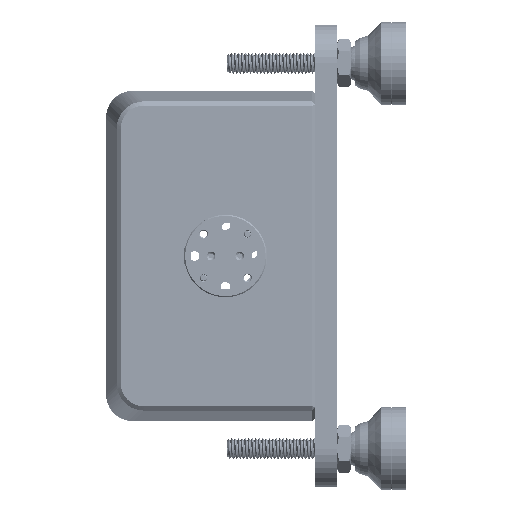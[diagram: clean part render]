
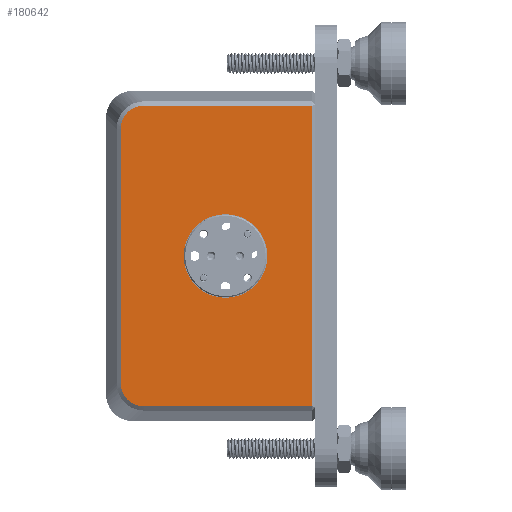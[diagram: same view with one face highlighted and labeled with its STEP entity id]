
A CAD part, left-side view. The second image highlights one B-rep face of the part: STEP entity #180642.
In plain terms, the highlighted planar face has unit normal (-1, 0, 0).
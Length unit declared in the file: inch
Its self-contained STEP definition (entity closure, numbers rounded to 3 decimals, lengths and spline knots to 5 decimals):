
#8777 = ORIENTED_EDGE ( 'NONE', *, *, #322362, .T. ) ;
#19108 = EDGE_CURVE ( 'NONE', #177743, #52567, #168896, .T. ) ;
#27045 = VERTEX_POINT ( 'NONE', #186743 ) ;
#29552 = ORIENTED_EDGE ( 'NONE', *, *, #258004, .T. ) ;
#29800 = ORIENTED_EDGE ( 'NONE', *, *, #163758, .T. ) ;
#30107 = CARTESIAN_POINT ( 'NONE',  ( -4.25, -6.65778, 1.15616 ) ) ;
#30877 = DIRECTION ( 'NONE',  ( 1., 0., 0. ) ) ;
#33364 = ORIENTED_EDGE ( 'NONE', *, *, #141290, .F. ) ;
#52567 = VERTEX_POINT ( 'NONE', #344353 ) ;
#56727 = VERTEX_POINT ( 'NONE', #301164 ) ;
#58526 = CARTESIAN_POINT ( 'NONE',  ( -4.25, -7.60786, 0.38 ) ) ;
#59593 = DIRECTION ( 'NONE',  ( -1., 0., 0. ) ) ;
#61718 = CARTESIAN_POINT ( 'NONE',  ( -4.25, -6.81171, 1.35964 ) ) ;
#67727 = AXIS2_PLACEMENT_3D ( 'NONE', #376000, #59593, #285598 ) ;
#75722 = DIRECTION ( 'NONE',  ( 0., 0., 1. ) ) ;
#87127 = CARTESIAN_POINT ( 'NONE',  ( -4.25, -6.76124, 1.33885 ) ) ;
#88879 = AXIS2_PLACEMENT_3D ( 'NONE', #229181, #30877, #227095 ) ;
#96050 = CARTESIAN_POINT ( 'NONE',  ( -4.25, -6.65778, -1.15616 ) ) ;
#98097 = DIRECTION ( 'NONE',  ( 0., 0., -1. ) ) ;
#100222 = CARTESIAN_POINT ( 'NONE',  ( -4.25, -6.6995, -1.28485 ) ) ;
#104328 = CARTESIAN_POINT ( 'NONE',  ( -4.25, -6.81171, -1.35965 ) ) ;
#119177 = AXIS2_PLACEMENT_3D ( 'NONE', #232094, #259707, #75722 ) ;
#129787 = CARTESIAN_POINT ( 'NONE',  ( -4.25, -6.8667, -1.36508 ) ) ;
#138709 = ORIENTED_EDGE ( 'NONE', *, *, #308731, .F. ) ;
#141290 = EDGE_CURVE ( 'NONE', #370892, #344122, #396104, .T. ) ;
#153500 = LINE ( 'NONE', #159714, #338527 ) ;
#155071 = CARTESIAN_POINT ( 'NONE',  ( -4.25, -6.65778, 0. ) ) ;
#157659 = VERTEX_POINT ( 'NONE', #362445 ) ;
#159714 = CARTESIAN_POINT ( 'NONE',  ( -4.25, -7.47286, -1.36508 ) ) ;
#163469 = CARTESIAN_POINT ( 'NONE',  ( -4.25, -6.68401, -1.26162 ) ) ;
#163758 = EDGE_CURVE ( 'NONE', #27045, #157659, #201663, .T. ) ;
#165573 = CARTESIAN_POINT ( 'NONE',  ( -4.25, -6.76124, -1.33884 ) ) ;
#168896 = B_SPLINE_CURVE_WITH_KNOTS ( 'NONE', 3,
 ( #407605, #376018, #61718, #87127, #215913, #285614, #182126, #190525, #411799, #30107 ),
 .UNSPECIFIED., .F., .F.,
 ( 4, 2, 2, 2, 4 ),
 ( 0., 0.25, 0.5, 0.75, 1. ),
 .UNSPECIFIED. ) ;
#173190 = EDGE_CURVE ( 'NONE', #52567, #27045, #290287, .T. ) ;
#177743 = VERTEX_POINT ( 'NONE', #239948 ) ;
#180642 = ADVANCED_FACE ( 'NONE', ( #341071, #180784 ), #242119, .F. ) ;
#180784 = FACE_OUTER_BOUND ( 'NONE', #411385, .T. ) ;
#182126 = CARTESIAN_POINT ( 'NONE',  ( -4.25, -6.68401, 1.26162 ) ) ;
#186743 = CARTESIAN_POINT ( 'NONE',  ( -4.25, -6.65778, -1.15616 ) ) ;
#188047 = ORIENTED_EDGE ( 'NONE', *, *, #19108, .T. ) ;
#190525 = CARTESIAN_POINT ( 'NONE',  ( -4.25, -6.66321, 1.21115 ) ) ;
#201663 = B_SPLINE_CURVE_WITH_KNOTS ( 'NONE', 3,
 ( #96050, #224854, #311460, #163469, #100222, #292450, #165573, #104328, #321774, #129787 ),
 .UNSPECIFIED., .F., .F.,
 ( 4, 2, 2, 2, 4 ),
 ( 0., 0.25, 0.5, 0.75, 1. ),
 .UNSPECIFIED. ) ;
#207814 = CARTESIAN_POINT ( 'NONE',  ( -4.25, -7.47286, 1.36508 ) ) ;
#215472 = CARTESIAN_POINT ( 'NONE',  ( -4.25, -8.39286, 0. ) ) ;
#215643 = VECTOR ( 'NONE', #98097, 39.37008 ) ;
#215913 = CARTESIAN_POINT ( 'NONE',  ( -4.25, -6.738, 1.32336 ) ) ;
#224854 = CARTESIAN_POINT ( 'NONE',  ( -4.25, -6.65778, -1.18364 ) ) ;
#227095 = DIRECTION ( 'NONE',  ( 0., 0., -1. ) ) ;
#229181 = CARTESIAN_POINT ( 'NONE',  ( -4.25, -7.47286, 0. ) ) ;
#232094 = CARTESIAN_POINT ( 'NONE',  ( -4.25, -7.60786, 0. ) ) ;
#239948 = CARTESIAN_POINT ( 'NONE',  ( -4.25, -6.8667, 1.36508 ) ) ;
#242119 = PLANE ( 'NONE',  #88879 ) ;
#242588 = VERTEX_POINT ( 'NONE', #331133 ) ;
#258004 = EDGE_CURVE ( 'NONE', #242588, #56727, #409242, .T. ) ;
#259707 = DIRECTION ( 'NONE',  ( -1., 0., 0. ) ) ;
#269405 = ORIENTED_EDGE ( 'NONE', *, *, #173190, .T. ) ;
#285598 = DIRECTION ( 'NONE',  ( 0., 0., 1. ) ) ;
#285614 = CARTESIAN_POINT ( 'NONE',  ( -4.25, -6.6995, 1.28486 ) ) ;
#288681 = DIRECTION ( 'NONE',  ( 0., -1., 0. ) ) ;
#290287 = LINE ( 'NONE', #155071, #215643 ) ;
#292450 = CARTESIAN_POINT ( 'NONE',  ( -4.25, -6.738, -1.32336 ) ) ;
#301164 = CARTESIAN_POINT ( 'NONE',  ( -4.25, -8.39286, 1.36508 ) ) ;
#308731 = EDGE_CURVE ( 'NONE', #344122, #370892, #390996, .T. ) ;
#309021 = DIRECTION ( 'NONE',  ( 0., 1., 0. ) ) ;
#311460 = CARTESIAN_POINT ( 'NONE',  ( -4.25, -6.66321, -1.21114 ) ) ;
#321774 = CARTESIAN_POINT ( 'NONE',  ( -4.25, -6.83915, -1.36508 ) ) ;
#322362 = EDGE_CURVE ( 'NONE', #157659, #242588, #153500, .T. ) ;
#331133 = CARTESIAN_POINT ( 'NONE',  ( -4.25, -8.39286, -1.36508 ) ) ;
#336233 = DIRECTION ( 'NONE',  ( 0., 0., 1. ) ) ;
#338527 = VECTOR ( 'NONE', #288681, 39.37008 ) ;
#341071 = FACE_BOUND ( 'NONE', #356492, .T. ) ;
#344122 = VERTEX_POINT ( 'NONE', #58526 ) ;
#344353 = CARTESIAN_POINT ( 'NONE',  ( -4.25, -6.65778, 1.15616 ) ) ;
#356492 = EDGE_LOOP ( 'NONE', ( #138709, #33364 ) ) ;
#361319 = VECTOR ( 'NONE', #309021, 39.37008 ) ;
#362445 = CARTESIAN_POINT ( 'NONE',  ( -4.25, -6.8667, -1.36508 ) ) ;
#365924 = LINE ( 'NONE', #207814, #361319 ) ;
#366278 = CARTESIAN_POINT ( 'NONE',  ( -4.25, -7.60786, -0.38 ) ) ;
#367531 = ORIENTED_EDGE ( 'NONE', *, *, #390051, .T. ) ;
#370892 = VERTEX_POINT ( 'NONE', #366278 ) ;
#376000 = CARTESIAN_POINT ( 'NONE',  ( -4.25, -7.60786, 0. ) ) ;
#376018 = CARTESIAN_POINT ( 'NONE',  ( -4.25, -6.83921, 1.36508 ) ) ;
#390051 = EDGE_CURVE ( 'NONE', #56727, #177743, #365924, .T. ) ;
#390996 = CIRCLE ( 'NONE', #67727, 0.38 ) ;
#396104 = CIRCLE ( 'NONE', #119177, 0.38 ) ;
#405942 = VECTOR ( 'NONE', #336233, 39.37008 ) ;
#407605 = CARTESIAN_POINT ( 'NONE',  ( -4.25, -6.8667, 1.36508 ) ) ;
#409242 = LINE ( 'NONE', #215472, #405942 ) ;
#411385 = EDGE_LOOP ( 'NONE', ( #29800, #8777, #29552, #367531, #188047, #269405 ) ) ;
#411799 = CARTESIAN_POINT ( 'NONE',  ( -4.25, -6.65778, 1.1837 ) ) ;
